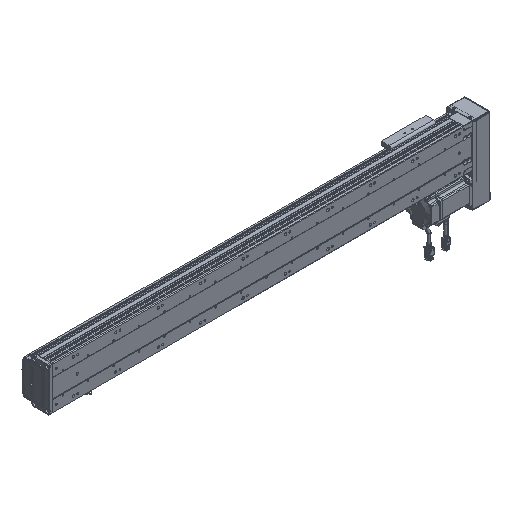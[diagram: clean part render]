
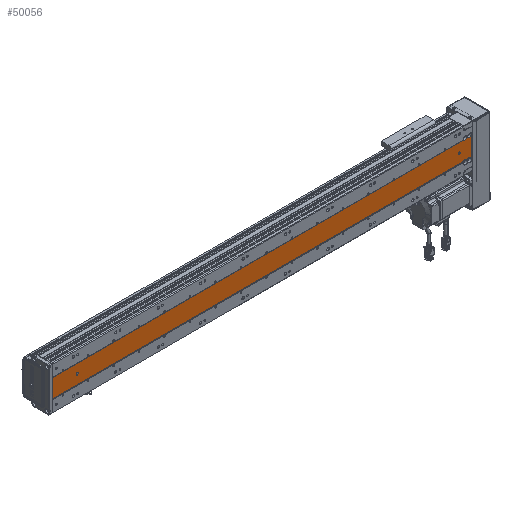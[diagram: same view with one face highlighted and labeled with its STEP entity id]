
A CAD part, isometric view. The second image highlights one B-rep face of the part: STEP entity #50056.
In plain terms, the highlighted planar face has unit normal (0, -1, 0).
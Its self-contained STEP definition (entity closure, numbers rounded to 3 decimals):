
#408 = CIRCLE ( 'NONE', #16910, 4.75 ) ;
#1787 = CIRCLE ( 'NONE', #16895, 4.75 ) ;
#16895 = AXIS2_PLACEMENT_3D ( 'NONE', #91009, #91054, #91088 ) ;
#16910 = AXIS2_PLACEMENT_3D ( 'NONE', #91160, #91152, #91121 ) ;
#17155 = AXIS2_PLACEMENT_3D ( 'NONE', #60425, #60455, #60400 ) ;
#17272 = AXIS2_PLACEMENT_3D ( 'NONE', #72997, #72965, #72966 ) ;
#18882 = AXIS2_PLACEMENT_3D ( 'NONE', #76097, #76107, #76052 ) ;
#18960 = AXIS2_PLACEMENT_3D ( 'NONE', #76526, #76558, #76485 ) ;
#19066 = AXIS2_PLACEMENT_3D ( 'NONE', #76472, #76602, #76498 ) ;
#19092 = AXIS2_PLACEMENT_3D ( 'NONE', #76478, #76519, #76553 ) ;
#20440 = AXIS2_PLACEMENT_3D ( 'NONE', #94227, #94260, #94220 ) ;
#31079 = LINE ( 'NONE', #64485, #31087 ) ;
#31087 = VECTOR ( 'NONE', #64459, 1000. ) ;
#31170 = VECTOR ( 'NONE', #64775, 1000. ) ;
#31202 = LINE ( 'NONE', #64768, #31170 ) ;
#31251 = LINE ( 'NONE', #84727, #31299 ) ;
#31299 = VECTOR ( 'NONE', #84732, 1000. ) ;
#31334 = LINE ( 'NONE', #84918, #31343 ) ;
#31343 = VECTOR ( 'NONE', #84935, 1000. ) ;
#31409 = LINE ( 'NONE', #85023, #31446 ) ;
#31446 = VECTOR ( 'NONE', #84979, 1000. ) ;
#33911 = EDGE_CURVE ( 'NONE', #38689, #38786, #1787, .T. ) ;
#33922 = EDGE_CURVE ( 'NONE', #38771, #38772, #408, .T. ) ;
#34196 = EDGE_CURVE ( 'NONE', #39095, #39070, #89515, .T. ) ;
#34256 = EDGE_CURVE ( 'NONE', #39141, #39097, #89585, .T. ) ;
#34474 = EDGE_CURVE ( 'NONE', #38771, #46239, #31079, .T. ) ;
#34509 = EDGE_CURVE ( 'NONE', #38689, #38772, #31202, .T. ) ;
#34550 = EDGE_CURVE ( 'NONE', #46321, #46248, #31251, .T. ) ;
#34571 = EDGE_CURVE ( 'NONE', #46332, #46275, #31334, .T. ) ;
#34582 = EDGE_CURVE ( 'NONE', #46300, #46287, #31409, .T. ) ;
#36027 = EDGE_CURVE ( 'NONE', #39070, #39095, #77488, .T. ) ;
#36101 = EDGE_CURVE ( 'NONE', #46321, #46769, #77664, .T. ) ;
#36114 = EDGE_CURVE ( 'NONE', #46275, #46300, #77766, .T. ) ;
#36123 = EDGE_CURVE ( 'NONE', #46769, #46332, #77713, .T. ) ;
#36125 = EDGE_CURVE ( 'NONE', #39097, #39141, #77792, .T. ) ;
#36157 = EDGE_CURVE ( 'NONE', #46287, #46239, #77850, .T. ) ;
#36179 = EDGE_CURVE ( 'NONE', #46248, #38786, #77822, .T. ) ;
#38689 = VERTEX_POINT ( 'NONE', #69095 ) ;
#38771 = VERTEX_POINT ( 'NONE', #69116 ) ;
#38772 = VERTEX_POINT ( 'NONE', #69155 ) ;
#38786 = VERTEX_POINT ( 'NONE', #69151 ) ;
#39070 = VERTEX_POINT ( 'NONE', #69452 ) ;
#39095 = VERTEX_POINT ( 'NONE', #69458 ) ;
#39097 = VERTEX_POINT ( 'NONE', #69473 ) ;
#39141 = VERTEX_POINT ( 'NONE', #69490 ) ;
#46239 = VERTEX_POINT ( 'NONE', #67834 ) ;
#46248 = VERTEX_POINT ( 'NONE', #67892 ) ;
#46275 = VERTEX_POINT ( 'NONE', #67941 ) ;
#46287 = VERTEX_POINT ( 'NONE', #67903 ) ;
#46300 = VERTEX_POINT ( 'NONE', #67904 ) ;
#46321 = VERTEX_POINT ( 'NONE', #67949 ) ;
#46332 = VERTEX_POINT ( 'NONE', #68015 ) ;
#46769 = VERTEX_POINT ( 'NONE', #66974 ) ;
#50056 = ADVANCED_FACE ( 'NONE', ( #74403, #74427, #74422 ), #94219, .F. ) ;
#60400 = DIRECTION ( 'NONE',  ( 1., 0., 0. ) ) ;
#60425 = CARTESIAN_POINT ( 'NONE',  ( 140.403, 89.548, 959. ) ) ;
#60455 = DIRECTION ( 'NONE',  ( 0., -1., 0. ) ) ;
#64459 = DIRECTION ( 'NONE',  ( 0., 0., -1. ) ) ;
#64485 = CARTESIAN_POINT ( 'NONE',  ( 161.989, 89.548, 989. ) ) ;
#64768 = CARTESIAN_POINT ( 'NONE',  ( 161.989, 89.548, 989. ) ) ;
#64775 = DIRECTION ( 'NONE',  ( 0., 0., -1. ) ) ;
#65588 = ORIENTED_EDGE ( 'NONE', *, *, #33922, .T. ) ;
#65606 = ORIENTED_EDGE ( 'NONE', *, *, #33911, .T. ) ;
#65614 = ORIENTED_EDGE ( 'NONE', *, *, #36125, .F. ) ;
#65619 = ORIENTED_EDGE ( 'NONE', *, *, #36157, .T. ) ;
#65624 = ORIENTED_EDGE ( 'NONE', *, *, #34582, .T. ) ;
#65639 = ORIENTED_EDGE ( 'NONE', *, *, #34196, .F. ) ;
#65659 = ORIENTED_EDGE ( 'NONE', *, *, #34550, .F. ) ;
#65661 = ORIENTED_EDGE ( 'NONE', *, *, #34571, .T. ) ;
#65662 = ORIENTED_EDGE ( 'NONE', *, *, #34509, .F. ) ;
#65673 = ORIENTED_EDGE ( 'NONE', *, *, #36123, .T. ) ;
#65678 = ORIENTED_EDGE ( 'NONE', *, *, #34256, .F. ) ;
#65681 = ORIENTED_EDGE ( 'NONE', *, *, #34474, .F. ) ;
#65682 = ORIENTED_EDGE ( 'NONE', *, *, #36027, .F. ) ;
#65690 = ORIENTED_EDGE ( 'NONE', *, *, #36114, .T. ) ;
#65691 = ORIENTED_EDGE ( 'NONE', *, *, #36101, .T. ) ;
#65751 = ORIENTED_EDGE ( 'NONE', *, *, #36179, .F. ) ;
#66974 = CARTESIAN_POINT ( 'NONE',  ( 118.817, 89.548, 986.302 ) ) ;
#67834 = CARTESIAN_POINT ( 'NONE',  ( 161.989, 89.548, 0. ) ) ;
#67892 = CARTESIAN_POINT ( 'NONE',  ( 161.989, 89.548, 989. ) ) ;
#67903 = CARTESIAN_POINT ( 'NONE',  ( 118.817, 89.548, 0. ) ) ;
#67904 = CARTESIAN_POINT ( 'NONE',  ( 118.817, 89.548, 969.698 ) ) ;
#67941 = CARTESIAN_POINT ( 'NONE',  ( 118.817, 89.548, 976.302 ) ) ;
#67949 = CARTESIAN_POINT ( 'NONE',  ( 118.817, 89.548, 989. ) ) ;
#68015 = CARTESIAN_POINT ( 'NONE',  ( 118.817, 89.548, 979.698 ) ) ;
#69095 = CARTESIAN_POINT ( 'NONE',  ( 161.989, 89.548, 979.698 ) ) ;
#69116 = CARTESIAN_POINT ( 'NONE',  ( 161.989, 89.548, 969.698 ) ) ;
#69151 = CARTESIAN_POINT ( 'NONE',  ( 161.989, 89.548, 986.302 ) ) ;
#69155 = CARTESIAN_POINT ( 'NONE',  ( 161.989, 89.548, 976.302 ) ) ;
#69452 = CARTESIAN_POINT ( 'NONE',  ( 142.903, 89.548, 59. ) ) ;
#69458 = CARTESIAN_POINT ( 'NONE',  ( 137.903, 89.548, 59. ) ) ;
#69473 = CARTESIAN_POINT ( 'NONE',  ( 142.903, 89.548, 959. ) ) ;
#69490 = CARTESIAN_POINT ( 'NONE',  ( 137.903, 89.548, 959. ) ) ;
#72965 = DIRECTION ( 'NONE',  ( 0., -1., 0. ) ) ;
#72966 = DIRECTION ( 'NONE',  ( 1., 0., 0. ) ) ;
#72997 = CARTESIAN_POINT ( 'NONE',  ( 140.403, 89.548, 59. ) ) ;
#74403 = FACE_BOUND ( 'NONE', #97673, .T. ) ;
#74422 = FACE_OUTER_BOUND ( 'NONE', #97701, .T. ) ;
#74427 = FACE_BOUND ( 'NONE', #99869, .T. ) ;
#76052 = DIRECTION ( 'NONE',  ( 1., 0., 0. ) ) ;
#76097 = CARTESIAN_POINT ( 'NONE',  ( 140.403, 89.548, 59. ) ) ;
#76107 = DIRECTION ( 'NONE',  ( 0., -1., 0. ) ) ;
#76305 = CARTESIAN_POINT ( 'NONE',  ( 118.817, 89.548, 989. ) ) ;
#76370 = DIRECTION ( 'NONE',  ( 0., 0., -1. ) ) ;
#76472 = CARTESIAN_POINT ( 'NONE',  ( 115.403, 89.548, 983. ) ) ;
#76478 = CARTESIAN_POINT ( 'NONE',  ( 115.403, 89.548, 973. ) ) ;
#76485 = DIRECTION ( 'NONE',  ( 1., 0., 0. ) ) ;
#76498 = DIRECTION ( 'NONE',  ( -1., 0., 0. ) ) ;
#76519 = DIRECTION ( 'NONE',  ( 0., 1., 0. ) ) ;
#76526 = CARTESIAN_POINT ( 'NONE',  ( 140.403, 89.548, 959. ) ) ;
#76553 = DIRECTION ( 'NONE',  ( -1., 0., 0. ) ) ;
#76558 = DIRECTION ( 'NONE',  ( 0., -1., 0. ) ) ;
#76602 = DIRECTION ( 'NONE',  ( 0., 1., 0. ) ) ;
#76725 = DIRECTION ( 'NONE',  ( 1., 0., 0. ) ) ;
#76736 = CARTESIAN_POINT ( 'NONE',  ( 161.989, 89.548, 0. ) ) ;
#76870 = CARTESIAN_POINT ( 'NONE',  ( 161.989, 89.548, 989. ) ) ;
#76908 = DIRECTION ( 'NONE',  ( 0., 0., -1. ) ) ;
#77488 = CIRCLE ( 'NONE', #18882, 2.5 ) ;
#77664 = LINE ( 'NONE', #76305, #77751 ) ;
#77713 = CIRCLE ( 'NONE', #19066, 4.75 ) ;
#77751 = VECTOR ( 'NONE', #76370, 1000. ) ;
#77766 = CIRCLE ( 'NONE', #19092, 4.75 ) ;
#77792 = CIRCLE ( 'NONE', #18960, 2.5 ) ;
#77800 = VECTOR ( 'NONE', #76725, 1000. ) ;
#77822 = LINE ( 'NONE', #76870, #77870 ) ;
#77850 = LINE ( 'NONE', #76736, #77800 ) ;
#77870 = VECTOR ( 'NONE', #76908, 1000. ) ;
#84727 = CARTESIAN_POINT ( 'NONE',  ( 161.989, 89.548, 989. ) ) ;
#84732 = DIRECTION ( 'NONE',  ( 1., 0., 0. ) ) ;
#84918 = CARTESIAN_POINT ( 'NONE',  ( 118.817, 89.548, 989. ) ) ;
#84935 = DIRECTION ( 'NONE',  ( 0., 0., -1. ) ) ;
#84979 = DIRECTION ( 'NONE',  ( 0., 0., -1. ) ) ;
#85023 = CARTESIAN_POINT ( 'NONE',  ( 118.817, 89.548, 989. ) ) ;
#89515 = CIRCLE ( 'NONE', #17272, 2.5 ) ;
#89585 = CIRCLE ( 'NONE', #17155, 2.5 ) ;
#91009 = CARTESIAN_POINT ( 'NONE',  ( 165.403, 89.548, 983. ) ) ;
#91054 = DIRECTION ( 'NONE',  ( 0., 1., 0. ) ) ;
#91088 = DIRECTION ( 'NONE',  ( -1., 0., 0. ) ) ;
#91121 = DIRECTION ( 'NONE',  ( -1., 0., 0. ) ) ;
#91152 = DIRECTION ( 'NONE',  ( 0., 1., 0. ) ) ;
#91160 = CARTESIAN_POINT ( 'NONE',  ( 165.403, 89.548, 973. ) ) ;
#94219 = PLANE ( 'NONE',  #20440 ) ;
#94220 = DIRECTION ( 'NONE',  ( -1., 0., 0. ) ) ;
#94227 = CARTESIAN_POINT ( 'NONE',  ( 161.989, 89.548, 989. ) ) ;
#94260 = DIRECTION ( 'NONE',  ( 0., 1., 0. ) ) ;
#97673 = EDGE_LOOP ( 'NONE', ( #65614, #65678 ) ) ;
#97701 = EDGE_LOOP ( 'NONE', ( #65662, #65606, #65751, #65659, #65691, #65673, #65661, #65690, #65624, #65619, #65681, #65588 ) ) ;
#99869 = EDGE_LOOP ( 'NONE', ( #65682, #65639 ) ) ;
